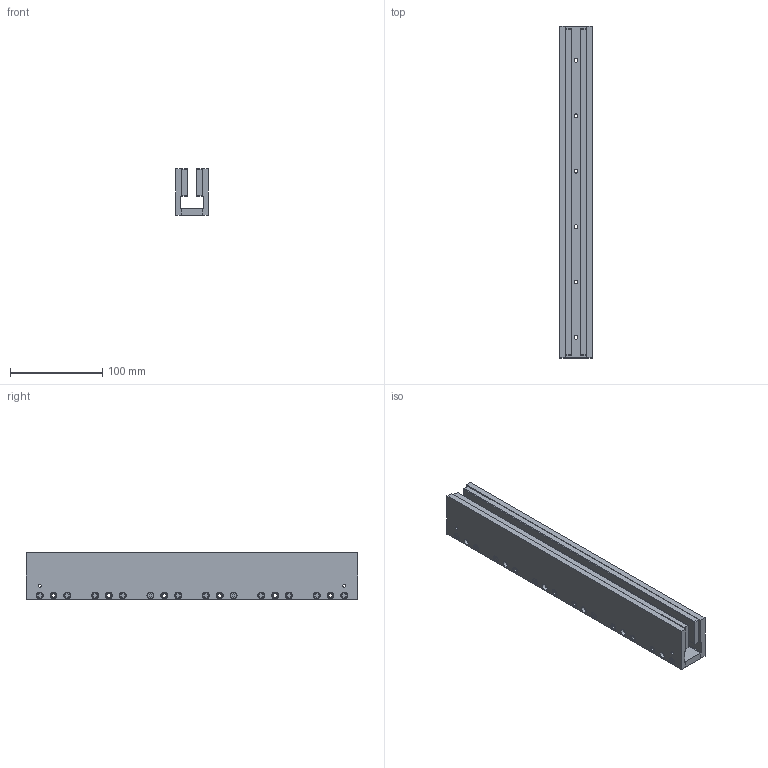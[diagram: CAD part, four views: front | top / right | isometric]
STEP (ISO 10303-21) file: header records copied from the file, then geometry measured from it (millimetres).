
FILE_DESCRIPTION (( 'STEP AP203' ), '1' );
FILE_NAME ('DX30F-TL360.step', '2021-01-04T10:14:10', ( '' ), ( '' ), 'SwSTEP 2.0', 'SolidWorks 2020', '' );
FILE_SCHEMA (( 'CONFIG_CONTROL_DESIGN' ));
Length unit declared in the file: millimetre
Products named in the file (1): DX30F-TL360
Bounding box: 35.7 x 359.5 x 50.8 mm (x, y, z)
Volume: 421439.8 mm3; surface area: 118492.3 mm2
Topology: 1 solids, 37 shells, 728 faces, 1580 edges, 1008 vertices
Faces by surface type: plane 344, cylinder 320, torus 48, sphere 16
Entity records: 20037 total; most frequent: DIRECTION 3758, CARTESIAN_POINT 3301, ORIENTED_EDGE 3128, EDGE_CURVE 1564, AXIS2_PLACEMENT_3D 1465, VERTEX_POINT 1008, EDGE_LOOP 906, LINE 828
